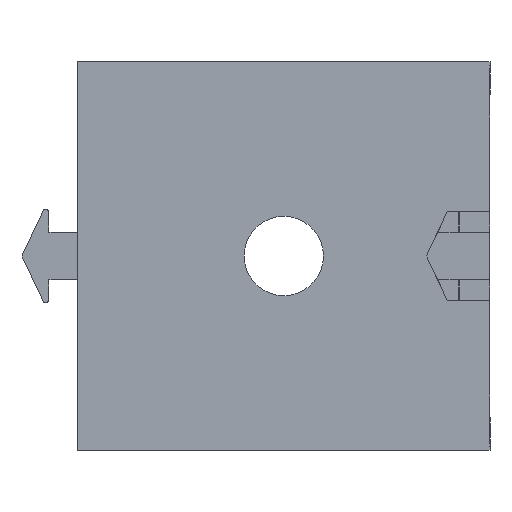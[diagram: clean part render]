
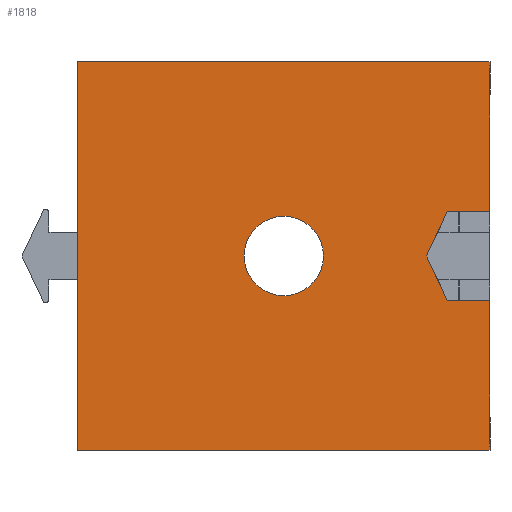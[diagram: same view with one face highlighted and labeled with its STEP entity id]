
A CAD part, front view. The second image highlights one B-rep face of the part: STEP entity #1818.
In plain terms, the highlighted planar face has unit normal (0, -1, 0).
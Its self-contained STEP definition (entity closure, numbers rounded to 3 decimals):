
#63 = EDGE_CURVE ( 'NONE', #359, #411, #3068, .T. ) ;
#124 = AXIS2_PLACEMENT_3D ( 'NONE', #1187, #1188, #1189 ) ;
#148 = AXIS2_PLACEMENT_3D ( 'NONE', #2613, #2590, #2600 ) ;
#257 = AXIS2_PLACEMENT_3D ( 'NONE', #4129, #4132, #4133 ) ;
#359 = VERTEX_POINT ( 'NONE', #930 ) ;
#378 = VERTEX_POINT ( 'NONE', #949 ) ;
#397 = VERTEX_POINT ( 'NONE', #968 ) ;
#399 = VERTEX_POINT ( 'NONE', #970 ) ;
#411 = VERTEX_POINT ( 'NONE', #982 ) ;
#418 = VERTEX_POINT ( 'NONE', #989 ) ;
#419 = VERTEX_POINT ( 'NONE', #990 ) ;
#471 = VERTEX_POINT ( 'NONE', #1042 ) ;
#484 = VERTEX_POINT ( 'NONE', #1055 ) ;
#532 = VERTEX_POINT ( 'NONE', #1103 ) ;
#593 = VERTEX_POINT ( 'NONE', #1164 ) ;
#734 = CARTESIAN_POINT ( 'NONE',  ( -13., -27., 10. ) ) ;
#758 = DIRECTION ( 'NONE',  ( 0., 0., -1. ) ) ;
#930 = CARTESIAN_POINT ( 'NONE',  ( -13., -27., 12.25 ) ) ;
#949 = CARTESIAN_POINT ( 'NONE',  ( 13., -27., -2.8 ) ) ;
#968 = CARTESIAN_POINT ( 'NONE',  ( 13., -27., 2.8 ) ) ;
#970 = CARTESIAN_POINT ( 'NONE',  ( 10.306, -27., 2.8 ) ) ;
#982 = CARTESIAN_POINT ( 'NONE',  ( -13., -27., -12.25 ) ) ;
#989 = CARTESIAN_POINT ( 'NONE',  ( 13., -27., 12.25 ) ) ;
#990 = CARTESIAN_POINT ( 'NONE',  ( 13., -27., -12.25 ) ) ;
#1042 = CARTESIAN_POINT ( 'NONE',  ( 0., -27., 2.5 ) ) ;
#1055 = CARTESIAN_POINT ( 'NONE',  ( 0., -27., -2.5 ) ) ;
#1103 = CARTESIAN_POINT ( 'NONE',  ( 9., -27., 0. ) ) ;
#1164 = CARTESIAN_POINT ( 'NONE',  ( 10.306, -27., -2.8 ) ) ;
#1187 = CARTESIAN_POINT ( 'NONE',  ( 0., -27., 0. ) ) ;
#1188 = DIRECTION ( 'NONE',  ( 0., 1., 0. ) ) ;
#1189 = DIRECTION ( 'NONE',  ( 0., 0., 1. ) ) ;
#1275 = EDGE_CURVE ( 'NONE', #484, #471, #3134, .T. ) ;
#1328 = EDGE_CURVE ( 'NONE', #399, #397, #3218, .T. ) ;
#1361 = EDGE_CURVE ( 'NONE', #378, #419, #3281, .T. ) ;
#1378 = EDGE_CURVE ( 'NONE', #418, #397, #3314, .T. ) ;
#1442 = EDGE_CURVE ( 'NONE', #471, #484, #3431, .T. ) ;
#1505 = EDGE_CURVE ( 'NONE', #419, #411, #3540, .T. ) ;
#1507 = EDGE_CURVE ( 'NONE', #532, #399, #3544, .T. ) ;
#1508 = EDGE_CURVE ( 'NONE', #418, #359, #3546, .T. ) ;
#1509 = EDGE_CURVE ( 'NONE', #378, #593, #3548, .T. ) ;
#1511 = EDGE_CURVE ( 'NONE', #593, #532, #3528, .T. ) ;
#1639 = EDGE_LOOP ( 'NONE', ( #2446, #2451, #2455, #2447, #2460, #2452, #2427, #2530, #2553 ) ) ;
#1642 = EDGE_LOOP ( 'NONE', ( #2450, #2437 ) ) ;
#1818 = ADVANCED_FACE ( 'NONE', ( #4593, #4595 ), #4130, .F. ) ;
#1922 = DIRECTION ( 'NONE',  ( 0., 0., -1. ) ) ;
#2031 = DIRECTION ( 'NONE',  ( 1., 0., 0. ) ) ;
#2032 = CARTESIAN_POINT ( 'NONE',  ( -8.715, -27., 2.8 ) ) ;
#2081 = CARTESIAN_POINT ( 'NONE',  ( 13., -27., 10. ) ) ;
#2118 = DIRECTION ( 'NONE',  ( 0., 0., -1. ) ) ;
#2138 = CARTESIAN_POINT ( 'NONE',  ( 13., -27., 10. ) ) ;
#2427 = ORIENTED_EDGE ( 'NONE', *, *, #1361, .F. ) ;
#2437 = ORIENTED_EDGE ( 'NONE', *, *, #1275, .T. ) ;
#2446 = ORIENTED_EDGE ( 'NONE', *, *, #1507, .T. ) ;
#2447 = ORIENTED_EDGE ( 'NONE', *, *, #1508, .T. ) ;
#2450 = ORIENTED_EDGE ( 'NONE', *, *, #1442, .T. ) ;
#2451 = ORIENTED_EDGE ( 'NONE', *, *, #1328, .T. ) ;
#2452 = ORIENTED_EDGE ( 'NONE', *, *, #1505, .F. ) ;
#2455 = ORIENTED_EDGE ( 'NONE', *, *, #1378, .F. ) ;
#2460 = ORIENTED_EDGE ( 'NONE', *, *, #63, .T. ) ;
#2530 = ORIENTED_EDGE ( 'NONE', *, *, #1509, .T. ) ;
#2553 = ORIENTED_EDGE ( 'NONE', *, *, #1511, .T. ) ;
#2590 = DIRECTION ( 'NONE',  ( 0., 1., 0. ) ) ;
#2600 = DIRECTION ( 'NONE',  ( 0., 0., 1. ) ) ;
#2613 = CARTESIAN_POINT ( 'NONE',  ( 0., -27., 0. ) ) ;
#3068 = LINE ( 'NONE', #734, #3070 ) ;
#3070 = VECTOR ( 'NONE', #758, 1000. ) ;
#3134 = CIRCLE ( 'NONE', #124, 2.5 ) ;
#3218 = LINE ( 'NONE', #2032, #3219 ) ;
#3219 = VECTOR ( 'NONE', #2031, 1000. ) ;
#3281 = LINE ( 'NONE', #2081, #3282 ) ;
#3282 = VECTOR ( 'NONE', #2118, 1000. ) ;
#3314 = LINE ( 'NONE', #2138, #3315 ) ;
#3315 = VECTOR ( 'NONE', #1922, 1000. ) ;
#3431 = CIRCLE ( 'NONE', #148, 2.5 ) ;
#3528 = LINE ( 'NONE', #3685, #3552 ) ;
#3540 = LINE ( 'NONE', #3704, #3541 ) ;
#3541 = VECTOR ( 'NONE', #3705, 1000. ) ;
#3544 = LINE ( 'NONE', #3708, #3545 ) ;
#3545 = VECTOR ( 'NONE', #3709, 1000. ) ;
#3546 = LINE ( 'NONE', #3710, #3547 ) ;
#3547 = VECTOR ( 'NONE', #3711, 1000. ) ;
#3548 = LINE ( 'NONE', #3712, #3549 ) ;
#3549 = VECTOR ( 'NONE', #3713, 1000. ) ;
#3552 = VECTOR ( 'NONE', #3717, 1000. ) ;
#3685 = CARTESIAN_POINT ( 'NONE',  ( 2.006, -27., 14.999 ) ) ;
#3704 = CARTESIAN_POINT ( 'NONE',  ( 13., -27., -12.25 ) ) ;
#3705 = DIRECTION ( 'NONE',  ( -1., 0., 0. ) ) ;
#3708 = CARTESIAN_POINT ( 'NONE',  ( 9.666, -27., 1.429 ) ) ;
#3709 = DIRECTION ( 'NONE',  ( 0.423, 0., 0.906 ) ) ;
#3710 = CARTESIAN_POINT ( 'NONE',  ( 13., -27., 12.25 ) ) ;
#3711 = DIRECTION ( 'NONE',  ( -1., 0., 0. ) ) ;
#3712 = CARTESIAN_POINT ( 'NONE',  ( -8.715, -27., -2.8 ) ) ;
#3713 = DIRECTION ( 'NONE',  ( -1., 0., 0. ) ) ;
#3717 = DIRECTION ( 'NONE',  ( -0.423, 0., 0.906 ) ) ;
#4129 = CARTESIAN_POINT ( 'NONE',  ( -8.715, -27., 10. ) ) ;
#4130 = PLANE ( 'NONE',  #257 ) ;
#4132 = DIRECTION ( 'NONE',  ( 0., 1., 0. ) ) ;
#4133 = DIRECTION ( 'NONE',  ( 0., 0., 1. ) ) ;
#4593 = FACE_BOUND ( 'NONE', #1642, .T. ) ;
#4595 = FACE_OUTER_BOUND ( 'NONE', #1639, .T. ) ;
